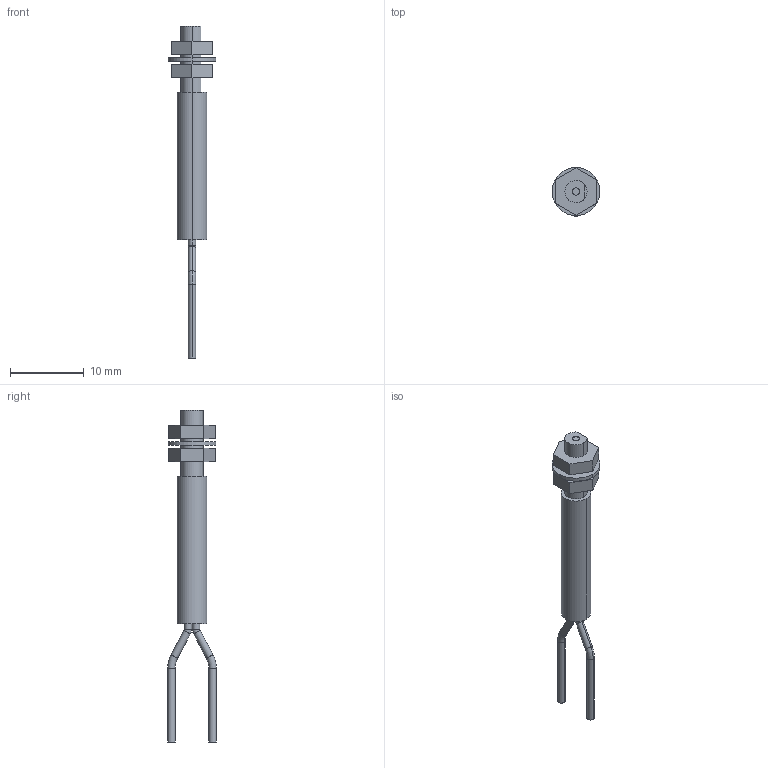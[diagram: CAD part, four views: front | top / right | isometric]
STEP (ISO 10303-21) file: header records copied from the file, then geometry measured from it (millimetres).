
FILE_DESCRIPTION (( 'STEP AP203' ), '1' );
FILE_NAME ('FD-P40.STEP', '2005-09-04T10:11:58', ( '川島良英' ), ( ' ' ), 'SwSTEP 2.0', 'SolidWorks 2004251', '' );
FILE_SCHEMA (( 'CONFIG_CONTROL_DESIGN' ));
Length unit declared in the file: millimetre
Products named in the file (1): FD-P40
Bounding box: 6.5 x 6.6 x 45 mm (x, y, z)
Volume: 419.4 mm3; surface area: 710.4 mm2
Topology: 4 solids, 4 shells, 60 faces, 128 edges, 80 vertices
Faces by surface type: cylinder 27, plane 25, torus 8
Entity records: 1709 total; most frequent: DIRECTION 312, CARTESIAN_POINT 269, ORIENTED_EDGE 256, EDGE_CURVE 128, AXIS2_PLACEMENT_3D 123, VERTEX_POINT 80, EDGE_LOOP 70, VECTOR 66
